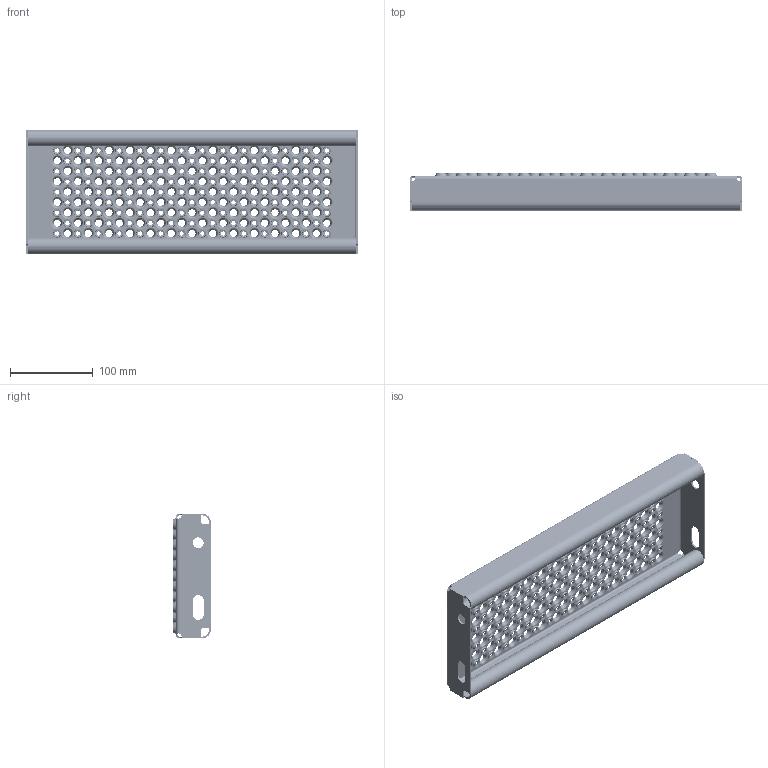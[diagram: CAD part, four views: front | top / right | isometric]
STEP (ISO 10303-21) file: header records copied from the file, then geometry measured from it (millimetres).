
FILE_DESCRIPTION (( 'STEP AP214' ), '1' );
FILE_NAME ('OPTIMO-Tread-Achil-O2-400x150x45x2-st240-F100020100.STEP', '2021-03-15T08:46:53', ( '' ), ( '' ), 'SwSTEP 2.0', 'SolidWorks 2021', '' );
FILE_SCHEMA (( 'AUTOMOTIVE_DESIGN' ));
Length unit declared in the file: millimetre
Products named in the file (1): OPTIMO-Tread-Achil-O2-400x150x45x2-st240-F100020100
Bounding box: 400 x 45 x 150 mm (x, y, z)
Volume: 263699 mm3; surface area: 281812.7 mm2
Topology: 1 solids, 1 shells, 3068 faces, 7954 edges, 4888 vertices
Faces by surface type: cone 1782, torus 1188, plane 50, cylinder 40, bspline 8
Entity records: 97752 total; most frequent: DIRECTION 20048, CARTESIAN_POINT 16503, ORIENTED_EDGE 15908, AXIS2_PLACEMENT_3D 9065, EDGE_CURVE 7954, CIRCLE 6004, VERTEX_POINT 4888, EDGE_LOOP 3670
